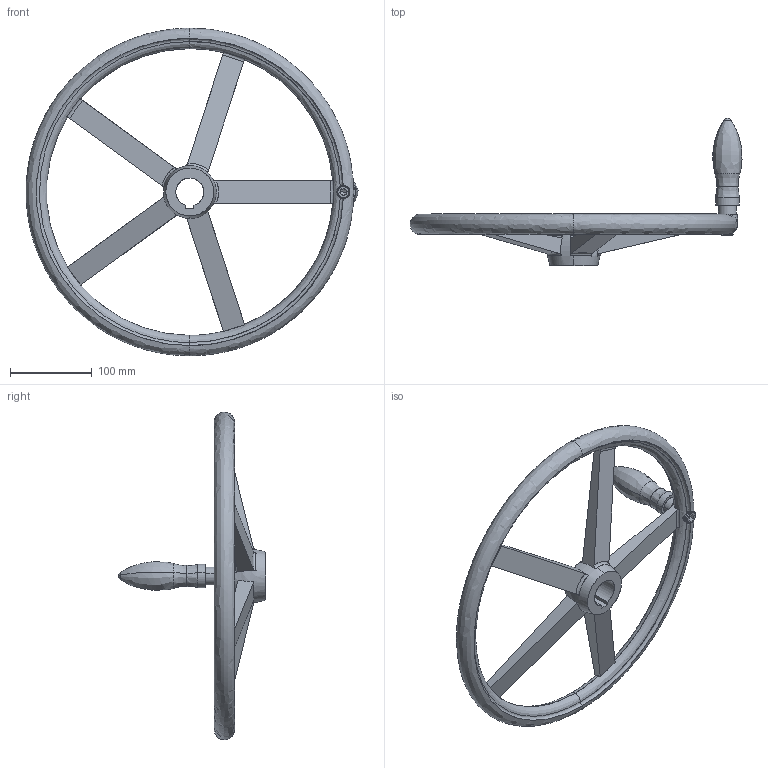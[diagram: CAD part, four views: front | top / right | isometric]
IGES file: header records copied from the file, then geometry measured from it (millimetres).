
Start section: SolidWorks IGES file using analytic representation for surfaces
Global section: file name: C:\Users\IanO\Desktop\Temp File\Process pending\77120_v2\77120_v2_20171108_IGES\77120.W0351.igs; native system: SolidWorks 2017; preprocessor: SolidWorks 2017; author: IanO; date: 171108.084629; units: millimetre
Bounding box: 405.3 x 180 x 400 mm (x, y, z)
Surface area: 188641.7 mm2 (no closed solid volume)
Topology: 0 solids, 0 shells, 158 faces, 2216 edges, 2207 vertices
Faces by surface type: bspline 85, revolution 73
